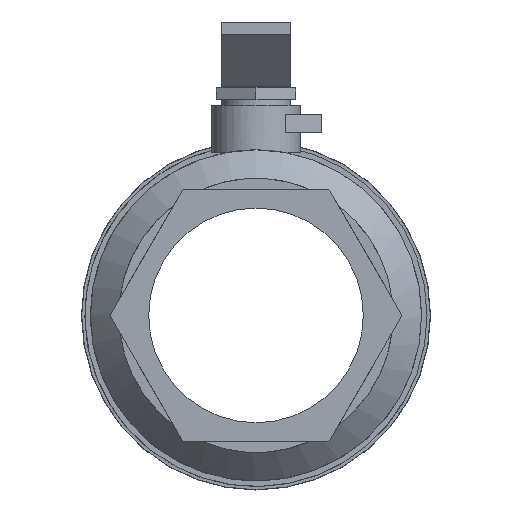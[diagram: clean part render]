
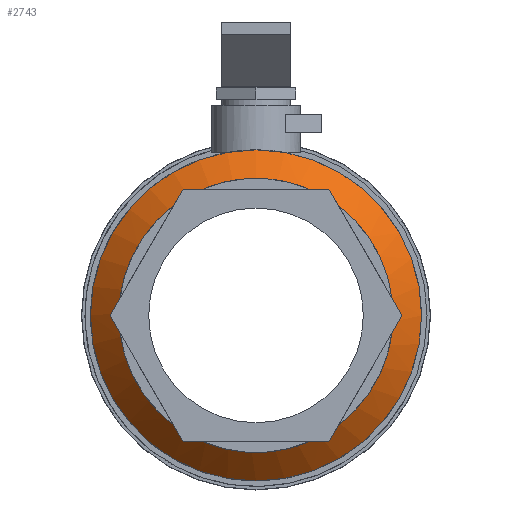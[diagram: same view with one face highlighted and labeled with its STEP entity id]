
A CAD part, left-side view. The second image highlights one B-rep face of the part: STEP entity #2743.
In plain terms, the highlighted conical face has half-angle 44.874 degrees and reference radius 3.016 mm.
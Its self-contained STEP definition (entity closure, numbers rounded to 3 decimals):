
#2020 = CYLINDRICAL_SURFACE('',#2021,3.3);
#2021 = AXIS2_PLACEMENT_3D('',#2022,#2023,#2024);
#2022 = CARTESIAN_POINT('',(1.15,0.,0.));
#2023 = DIRECTION('',(1.,0.,0.));
#2024 = DIRECTION('',(0.,-1.,0.));
#2571 = VERTEX_POINT('',#2572);
#2572 = CARTESIAN_POINT('',(1.15,0.,3.3));
#2592 = EDGE_CURVE('',#2571,#2571,#2593,.T.);
#2593 = SURFACE_CURVE('',#2594,(#2599,#2606),.PCURVE_S1.);
#2594 = CIRCLE('',#2595,3.3);
#2595 = AXIS2_PLACEMENT_3D('',#2596,#2597,#2598);
#2596 = CARTESIAN_POINT('',(1.15,0.,0.));
#2597 = DIRECTION('',(1.,0.,-0.));
#2598 = DIRECTION('',(0.,0.,1.));
#2599 = PCURVE('',#2020,#2600);
#2600 = DEFINITIONAL_REPRESENTATION('',(#2601),#2605);
#2601 = LINE('',#2602,#2603);
#2602 = CARTESIAN_POINT('',(4.712,0.));
#2603 = VECTOR('',#2604,1.);
#2604 = DIRECTION('',(1.,0.));
#2605 = ( GEOMETRIC_REPRESENTATION_CONTEXT(2) 
PARAMETRIC_REPRESENTATION_CONTEXT() REPRESENTATION_CONTEXT('2D SPACE',''
  ) );
#2606 = PCURVE('',#2607,#2612);
#2607 = CONICAL_SURFACE('',#2608,3.016,0.783);
#2608 = AXIS2_PLACEMENT_3D('',#2609,#2610,#2611);
#2609 = CARTESIAN_POINT('',(0.865,0.,0.));
#2610 = DIRECTION('',(1.,0.,0.));
#2611 = DIRECTION('',(0.,0.,1.));
#2612 = DEFINITIONAL_REPRESENTATION('',(#2613),#2617);
#2613 = LINE('',#2614,#2615);
#2614 = CARTESIAN_POINT('',(0.,0.285));
#2615 = VECTOR('',#2616,1.);
#2616 = DIRECTION('',(1.,0.));
#2617 = ( GEOMETRIC_REPRESENTATION_CONTEXT(2) 
PARAMETRIC_REPRESENTATION_CONTEXT() REPRESENTATION_CONTEXT('2D SPACE',''
  ) );
#2743 = ADVANCED_FACE('',(#2744),#2607,.T.);
#2744 = FACE_BOUND('',#2745,.T.);
#2745 = EDGE_LOOP('',(#2746,#2747,#2769,#2798,#2820));
#2746 = ORIENTED_EDGE('',*,*,#2592,.F.);
#2747 = ORIENTED_EDGE('',*,*,#2748,.F.);
#2748 = EDGE_CURVE('',#2749,#2571,#2751,.T.);
#2749 = VERTEX_POINT('',#2750);
#2750 = CARTESIAN_POINT('',(0.58,0.,2.733));
#2751 = SEAM_CURVE('',#2752,(#2755,#2762),.PCURVE_S1.);
#2752 = B_SPLINE_CURVE_WITH_KNOTS('',1,(#2753,#2754),.UNSPECIFIED.,.F.,
  .F.,(2,2),(-0.402,0.402),.PIECEWISE_BEZIER_KNOTS.);
#2753 = CARTESIAN_POINT('',(0.58,0.,2.733));
#2754 = CARTESIAN_POINT('',(1.15,0.,3.3));
#2755 = PCURVE('',#2607,#2756);
#2756 = DEFINITIONAL_REPRESENTATION('',(#2757),#2761);
#2757 = LINE('',#2758,#2759);
#2758 = CARTESIAN_POINT('',(0.,0.));
#2759 = VECTOR('',#2760,1.);
#2760 = DIRECTION('',(0.,1.));
#2761 = ( GEOMETRIC_REPRESENTATION_CONTEXT(2) 
PARAMETRIC_REPRESENTATION_CONTEXT() REPRESENTATION_CONTEXT('2D SPACE',''
  ) );
#2762 = PCURVE('',#2607,#2763);
#2763 = DEFINITIONAL_REPRESENTATION('',(#2764),#2768);
#2764 = LINE('',#2765,#2766);
#2765 = CARTESIAN_POINT('',(6.283,0.));
#2766 = VECTOR('',#2767,1.);
#2767 = DIRECTION('',(0.,1.));
#2768 = ( GEOMETRIC_REPRESENTATION_CONTEXT(2) 
PARAMETRIC_REPRESENTATION_CONTEXT() REPRESENTATION_CONTEXT('2D SPACE',''
  ) );
#2769 = ORIENTED_EDGE('',*,*,#2770,.T.);
#2770 = EDGE_CURVE('',#2749,#2771,#2773,.T.);
#2771 = VERTEX_POINT('',#2772);
#2772 = CARTESIAN_POINT('',(0.58,-2.711,0.345));
#2773 = SURFACE_CURVE('',#2774,(#2779,#2786),.PCURVE_S1.);
#2774 = CIRCLE('',#2775,2.733);
#2775 = AXIS2_PLACEMENT_3D('',#2776,#2777,#2778);
#2776 = CARTESIAN_POINT('',(0.58,0.,0.));
#2777 = DIRECTION('',(1.,0.,-0.));
#2778 = DIRECTION('',(0.,0.,1.));
#2779 = PCURVE('',#2607,#2780);
#2780 = DEFINITIONAL_REPRESENTATION('',(#2781),#2785);
#2781 = LINE('',#2782,#2783);
#2782 = CARTESIAN_POINT('',(0.,-0.285));
#2783 = VECTOR('',#2784,1.);
#2784 = DIRECTION('',(1.,0.));
#2785 = ( GEOMETRIC_REPRESENTATION_CONTEXT(2) 
PARAMETRIC_REPRESENTATION_CONTEXT() REPRESENTATION_CONTEXT('2D SPACE',''
  ) );
#2786 = PCURVE('',#2787,#2792);
#2787 = CYLINDRICAL_SURFACE('',#2788,2.733);
#2788 = AXIS2_PLACEMENT_3D('',#2789,#2790,#2791);
#2789 = CARTESIAN_POINT('',(0.865,0.,0.));
#2790 = DIRECTION('',(-1.,-0.,-0.));
#2791 = DIRECTION('',(0.,0.,1.));
#2792 = DEFINITIONAL_REPRESENTATION('',(#2793),#2797);
#2793 = LINE('',#2794,#2795);
#2794 = CARTESIAN_POINT('',(-0.,0.285));
#2795 = VECTOR('',#2796,1.);
#2796 = DIRECTION('',(-1.,0.));
#2797 = ( GEOMETRIC_REPRESENTATION_CONTEXT(2) 
PARAMETRIC_REPRESENTATION_CONTEXT() REPRESENTATION_CONTEXT('2D SPACE',''
  ) );
#2798 = ORIENTED_EDGE('',*,*,#2799,.T.);
#2799 = EDGE_CURVE('',#2771,#2749,#2800,.T.);
#2800 = SURFACE_CURVE('',#2801,(#2806,#2813),.PCURVE_S1.);
#2801 = CIRCLE('',#2802,2.733);
#2802 = AXIS2_PLACEMENT_3D('',#2803,#2804,#2805);
#2803 = CARTESIAN_POINT('',(0.58,0.,0.));
#2804 = DIRECTION('',(1.,0.,-0.));
#2805 = DIRECTION('',(0.,0.,1.));
#2806 = PCURVE('',#2607,#2807);
#2807 = DEFINITIONAL_REPRESENTATION('',(#2808),#2812);
#2808 = LINE('',#2809,#2810);
#2809 = CARTESIAN_POINT('',(0.,-0.285));
#2810 = VECTOR('',#2811,1.);
#2811 = DIRECTION('',(1.,0.));
#2812 = ( GEOMETRIC_REPRESENTATION_CONTEXT(2) 
PARAMETRIC_REPRESENTATION_CONTEXT() REPRESENTATION_CONTEXT('2D SPACE',''
  ) );
#2813 = PCURVE('',#2787,#2814);
#2814 = DEFINITIONAL_REPRESENTATION('',(#2815),#2819);
#2815 = LINE('',#2816,#2817);
#2816 = CARTESIAN_POINT('',(-0.,0.285));
#2817 = VECTOR('',#2818,1.);
#2818 = DIRECTION('',(-1.,0.));
#2819 = ( GEOMETRIC_REPRESENTATION_CONTEXT(2) 
PARAMETRIC_REPRESENTATION_CONTEXT() REPRESENTATION_CONTEXT('2D SPACE',''
  ) );
#2820 = ORIENTED_EDGE('',*,*,#2748,.T.);
